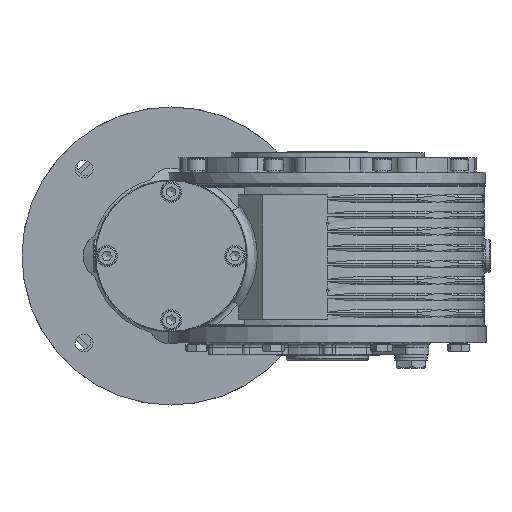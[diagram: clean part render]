
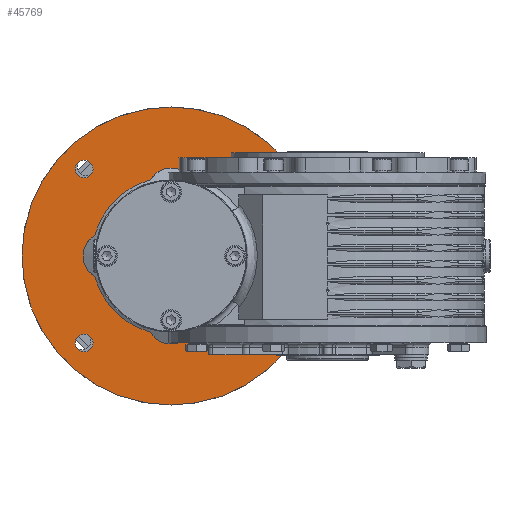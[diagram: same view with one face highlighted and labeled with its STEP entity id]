
A CAD part, left-side view. The second image highlights one B-rep face of the part: STEP entity #45769.
In plain terms, the highlighted planar face has unit normal (-1, 0, 0) as drawn and (0, 0, 1) by its records, which use the part's own axes.
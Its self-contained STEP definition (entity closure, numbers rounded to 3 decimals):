
#44006=CARTESIAN_POINT('',(-64.336,-58.336,11.0));
#44007=VERTEX_POINT('',#44006);
#44008=CARTESIAN_POINT('',(-58.336,-58.336,11.0));
#44009=DIRECTION('',(0.0,0.0,-1.0));
#44010=DIRECTION('',(1.0,0.0,0.0));
#44011=AXIS2_PLACEMENT_3D('',#44008,#44009,#44010);
#44012=CIRCLE('',#44011,6.);
#44013=EDGE_CURVE('',#44007,#44007,#44012,.T.);
#44026=CARTESIAN_POINT('',(52.336,58.336,11.0));
#44027=VERTEX_POINT('',#44026);
#44028=CARTESIAN_POINT('',(58.336,58.336,11.0));
#44029=DIRECTION('',(0.0,0.0,-1.0));
#44030=DIRECTION('',(1.0,0.0,0.0));
#44031=AXIS2_PLACEMENT_3D('',#44028,#44029,#44030);
#44032=CIRCLE('',#44031,6.);
#44033=EDGE_CURVE('',#44027,#44027,#44032,.T.);
#44046=CARTESIAN_POINT('',(-64.336,58.336,11.0));
#44047=VERTEX_POINT('',#44046);
#44048=CARTESIAN_POINT('',(-58.336,58.336,11.0));
#44049=DIRECTION('',(0.0,0.0,-1.0));
#44050=DIRECTION('',(1.0,0.0,0.0));
#44051=AXIS2_PLACEMENT_3D('',#44048,#44049,#44050);
#44052=CIRCLE('',#44051,6.);
#44053=EDGE_CURVE('',#44047,#44047,#44052,.T.);
#44066=CARTESIAN_POINT('',(52.336,-58.336,11.0));
#44067=VERTEX_POINT('',#44066);
#44068=CARTESIAN_POINT('',(58.336,-58.336,11.0));
#44069=DIRECTION('',(0.0,0.0,-1.0));
#44070=DIRECTION('',(1.0,0.0,0.0));
#44071=AXIS2_PLACEMENT_3D('',#44068,#44069,#44070);
#44072=CIRCLE('',#44071,6.);
#44073=EDGE_CURVE('',#44067,#44067,#44072,.T.);
#45509=CARTESIAN_POINT('',(-13.747,51.186,11.0));
#45510=VERTEX_POINT('',#45509);
#45517=CARTESIAN_POINT('',(-51.186,13.747,11.0));
#45518=VERTEX_POINT('',#45517);
#45519=CARTESIAN_POINT('',(0.0,0.0,11.0));
#45520=DIRECTION('',(0.0,0.0,-1.0));
#45521=DIRECTION('',(-1.0,0.0,0.0));
#45522=AXIS2_PLACEMENT_3D('',#45519,#45520,#45521);
#45523=CIRCLE('',#45522,53.);
#45524=EDGE_CURVE('',#45518,#45510,#45523,.T.);
#45542=CARTESIAN_POINT('',(13.747,51.186,11.0));
#45543=VERTEX_POINT('',#45542);
#45550=CARTESIAN_POINT('',(0.0,43.0,11.0));
#45551=DIRECTION('',(0.0,0.0,-1.0));
#45552=DIRECTION('',(-1.0,0.0,0.0));
#45553=AXIS2_PLACEMENT_3D('',#45550,#45551,#45552);
#45554=CIRCLE('',#45553,16.0);
#45555=EDGE_CURVE('',#45510,#45543,#45554,.T.);
#45567=CARTESIAN_POINT('',(51.186,13.747,11.0));
#45568=VERTEX_POINT('',#45567);
#45575=CARTESIAN_POINT('',(0.0,0.0,11.0));
#45576=DIRECTION('',(0.0,0.0,-1.0));
#45577=DIRECTION('',(-1.0,0.0,0.0));
#45578=AXIS2_PLACEMENT_3D('',#45575,#45576,#45577);
#45579=CIRCLE('',#45578,53.);
#45580=EDGE_CURVE('',#45543,#45568,#45579,.T.);
#45604=CARTESIAN_POINT('',(-51.186,-13.747,11.0));
#45605=VERTEX_POINT('',#45604);
#45612=CARTESIAN_POINT('',(-13.747,-51.186,11.0));
#45613=VERTEX_POINT('',#45612);
#45614=CARTESIAN_POINT('',(0.0,0.0,11.0));
#45615=DIRECTION('',(0.0,0.0,-1.0));
#45616=DIRECTION('',(-1.0,0.0,0.0));
#45617=AXIS2_PLACEMENT_3D('',#45614,#45615,#45616);
#45618=CIRCLE('',#45617,53.);
#45619=EDGE_CURVE('',#45613,#45605,#45618,.T.);
#45636=CARTESIAN_POINT('',(13.747,-51.186,11.0));
#45637=VERTEX_POINT('',#45636);
#45644=CARTESIAN_POINT('',(51.186,-13.747,11.0));
#45645=VERTEX_POINT('',#45644);
#45646=CARTESIAN_POINT('',(0.0,0.0,11.0));
#45647=DIRECTION('',(0.0,0.0,-1.0));
#45648=DIRECTION('',(-1.0,0.0,0.0));
#45649=AXIS2_PLACEMENT_3D('',#45646,#45647,#45648);
#45650=CIRCLE('',#45649,53.);
#45651=EDGE_CURVE('',#45645,#45637,#45650,.T.);
#45669=CARTESIAN_POINT('',(43.0,0.,11.0));
#45670=DIRECTION('',(0.0,0.0,-1.0));
#45671=DIRECTION('',(-1.0,0.0,0.0));
#45672=AXIS2_PLACEMENT_3D('',#45669,#45670,#45671);
#45673=CIRCLE('',#45672,16.0);
#45674=EDGE_CURVE('',#45568,#45645,#45673,.T.);
#45688=CARTESIAN_POINT('',(-43.0,0.,11.0));
#45689=DIRECTION('',(0.0,0.0,-1.0));
#45690=DIRECTION('',(-1.0,0.0,0.0));
#45691=AXIS2_PLACEMENT_3D('',#45688,#45689,#45690);
#45692=CIRCLE('',#45691,16.0);
#45693=EDGE_CURVE('',#45605,#45518,#45692,.T.);
#45707=CARTESIAN_POINT('',(0.,-43.0,11.0));
#45708=DIRECTION('',(0.0,0.0,-1.0));
#45709=DIRECTION('',(-1.0,0.0,0.0));
#45710=AXIS2_PLACEMENT_3D('',#45707,#45708,#45709);
#45711=CIRCLE('',#45710,16.0);
#45712=EDGE_CURVE('',#45637,#45613,#45711,.T.);
#45724=CARTESIAN_POINT('',(100.0,0.,11.0));
#45725=VERTEX_POINT('',#45724);
#45726=CARTESIAN_POINT('',(0.0,0.0,11.0));
#45727=DIRECTION('',(0.0,0.0,-1.0));
#45728=DIRECTION('',(-1.0,0.0,0.0));
#45729=AXIS2_PLACEMENT_3D('',#45726,#45727,#45728);
#45730=CIRCLE('',#45729,100.0);
#45731=EDGE_CURVE('',#45725,#45725,#45730,.T.);
#45739=CARTESIAN_POINT('',(0.0,0.0,11.0));
#45740=DIRECTION('',(0.0,0.0,-1.0));
#45741=DIRECTION('',(-1.0,0.0,0.0));
#45742=AXIS2_PLACEMENT_3D('',#45739,#45740,#45741);
#45743=PLANE('',#45742);
#45744=ORIENTED_EDGE('',*,*,#45731,.F.);
#45745=EDGE_LOOP('',(#45744));
#45746=FACE_OUTER_BOUND('',#45745,.T.);
#45747=ORIENTED_EDGE('',*,*,#44013,.T.);
#45748=EDGE_LOOP('',(#45747));
#45749=FACE_BOUND('',#45748,.T.);
#45750=ORIENTED_EDGE('',*,*,#44033,.T.);
#45751=EDGE_LOOP('',(#45750));
#45752=FACE_BOUND('',#45751,.T.);
#45753=ORIENTED_EDGE('',*,*,#44053,.T.);
#45754=EDGE_LOOP('',(#45753));
#45755=FACE_BOUND('',#45754,.T.);
#45756=ORIENTED_EDGE('',*,*,#44073,.T.);
#45757=EDGE_LOOP('',(#45756));
#45758=FACE_BOUND('',#45757,.T.);
#45759=ORIENTED_EDGE('',*,*,#45651,.T.);
#45760=ORIENTED_EDGE('',*,*,#45712,.T.);
#45761=ORIENTED_EDGE('',*,*,#45619,.T.);
#45762=ORIENTED_EDGE('',*,*,#45693,.T.);
#45763=ORIENTED_EDGE('',*,*,#45524,.T.);
#45764=ORIENTED_EDGE('',*,*,#45555,.T.);
#45765=ORIENTED_EDGE('',*,*,#45580,.T.);
#45766=ORIENTED_EDGE('',*,*,#45674,.T.);
#45767=EDGE_LOOP('',(#45759,#45760,#45761,#45762,#45763,#45764,#45765,#45766));
#45768=FACE_BOUND('',#45767,.T.);
#45769=ADVANCED_FACE('',(#45746,#45749,#45752,#45755,#45758,#45768),#45743,.F.);
